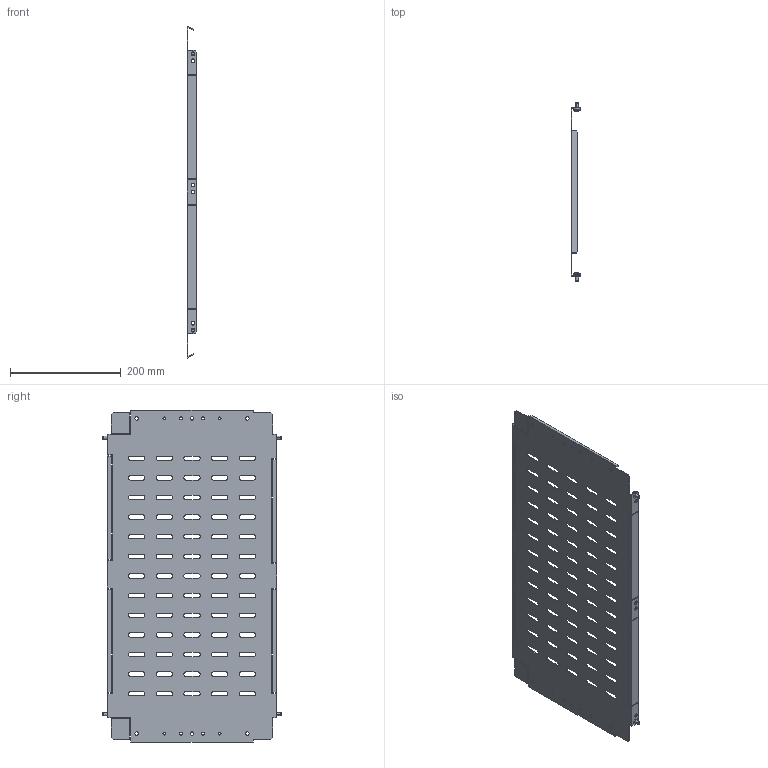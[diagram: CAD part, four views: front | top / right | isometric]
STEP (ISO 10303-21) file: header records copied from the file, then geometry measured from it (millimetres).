
FILE_DESCRIPTION (( 'STEP AP214' ), '1' );
FILE_NAME ('FO-00-SWV-060-040 Ïåðåãîðîäêà ñåêöèîíèðîâàíèÿ âåðòèêàëüíàÿ 600õ400 ìì.STEP', '2025-09-18T13:25:37', ( '' ), ( '' ), 'SwSTEP 2.0', 'SolidWorks 2023', '' );
FILE_SCHEMA (( 'AUTOMOTIVE_DESIGN' ));
Length unit declared in the file: millimetre
Products named in the file (1): FO-00-SWV-060-040 Перегородка секционирования вертикальная 600х400 мм
Bounding box: 17.5 x 321.9 x 600.39 mm (x, y, z)
Volume: 280982.7 mm3; surface area: 386215.7 mm2
Topology: 1 solids, 1 shells, 650 faces, 1912 edges, 1264 vertices
Faces by surface type: plane 360, cylinder 258, cone 16, torus 16
Entity records: 22183 total; most frequent: CARTESIAN_POINT 3827, ORIENTED_EDGE 3824, DIRECTION 3778, EDGE_CURVE 1912, VECTOR 1348, LINE 1348, VERTEX_POINT 1264, AXIS2_PLACEMENT_3D 1215
